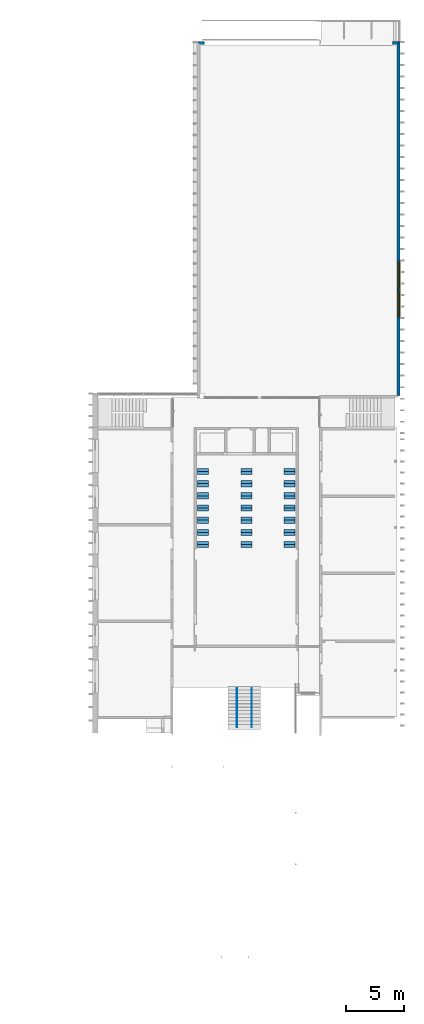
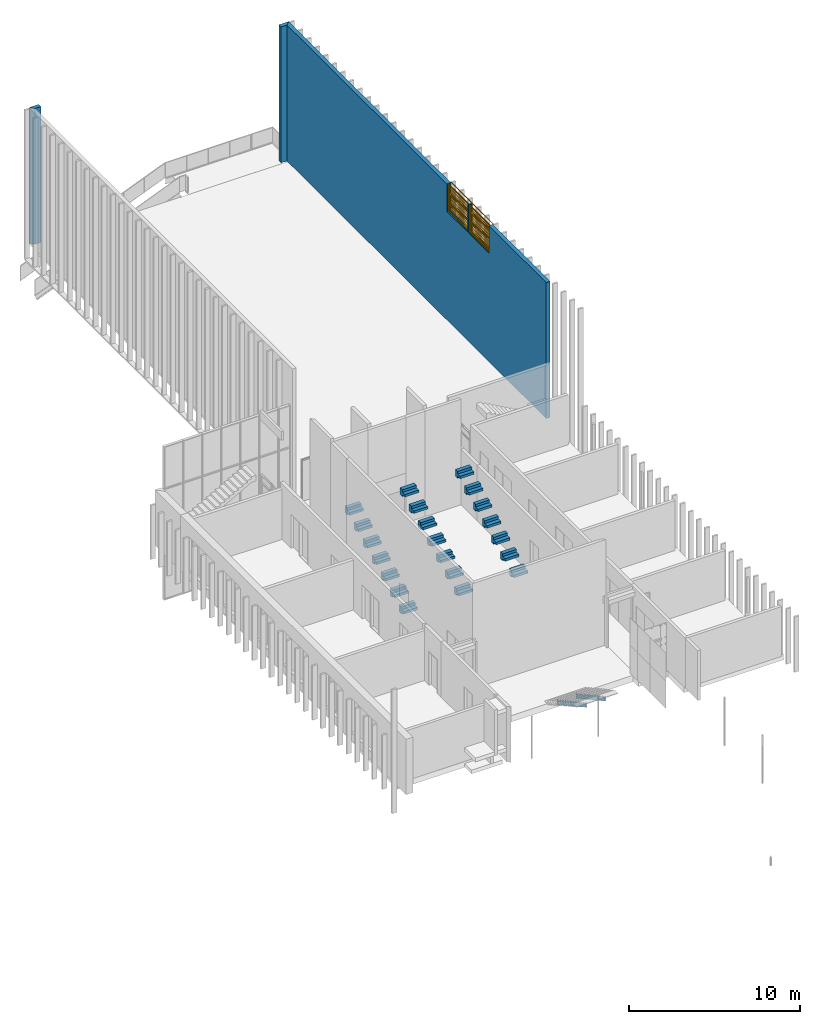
# One storey, part 14 of 62: 23 stairs, 3 walls, 2 windows, 2 openings.
"""IFC2X3 building model written with IfcOpenShell, lengths in millimetres."""

from ifc_helpers import new_model, entity, si_unit, converted_unit, derived_unit, money_unit, direction, frame, origin_with_axes, origin_2d_with_axis, place, context, subcontext, project, spatial, polyline, rectangle, outline, extrude, faceted_brep, source, transform, mapped, material, layer, layer_set, layer_usage, type_object, element, fill, save


model = new_model("IFC2X3")

# Units and contexts
model_context = context("Model", 3, precision=0.01, world=origin_with_axes(), true_north=direction((0.0, 1.0)))
body_context = subcontext(model_context, "Body", "Model", "MODEL_VIEW")
ifc_project = project(units=[si_unit("LENGTHUNIT", "METRE", prefix="MILLI"), si_unit("AREAUNIT", "SQUARE_METRE"), si_unit("VOLUMEUNIT", "CUBIC_METRE"), converted_unit("PLANEANGLEUNIT", "DEGREE", entity("IfcPlaneAngleMeasure", 0.0174532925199), si_unit("PLANEANGLEUNIT", "RADIAN"), dimensions=[0, 0, 0, 0, 0, 0, 0]), si_unit("SOLIDANGLEUNIT", "STERADIAN"), money_unit("EUR"), converted_unit("TIMEUNIT", "Year", entity("IfcTimeMeasure", 31556926.0), si_unit("TIMEUNIT", "SECOND"), dimensions=[0, 0, 1, 0, 0, 0, 0]), si_unit("MASSUNIT", "GRAM", prefix="KILO"), si_unit("THERMODYNAMICTEMPERATUREUNIT", "DEGREE_CELSIUS"), si_unit("LUMINOUSINTENSITYUNIT", "LUMEN"), si_unit("ENERGYUNIT", "JOULE", prefix="MEGA"), derived_unit("THERMALCONDUCTANCEUNIT", [(si_unit("POWERUNIT", "WATT"), 1), (si_unit("LENGTHUNIT", "METRE"), -1), (si_unit("THERMODYNAMICTEMPERATUREUNIT", "KELVIN"), -1)]), derived_unit("SPECIFICHEATCAPACITYUNIT", [(si_unit("ENERGYUNIT", "JOULE"), 1), (si_unit("MASSUNIT", "GRAM", prefix="KILO"), -1), (si_unit("THERMODYNAMICTEMPERATUREUNIT", "KELVIN"), -1)]), derived_unit("MASSDENSITYUNIT", [(si_unit("MASSUNIT", "GRAM", prefix="KILO"), 1), (si_unit("VOLUMEUNIT", "CUBIC_METRE"), -1)])], contexts=[model_context])

# Site, building, storey
site_placement = place(None, origin_with_axes())
site = spatial("IfcSite", under=ifc_project, at=site_placement, Name="Puškini 31, Narva", CompositionType="ELEMENT")
building_placement = place(site_placement, origin_with_axes())
building = spatial("IfcBuilding", under=site, at=building_placement, Name="Narva Riigigümnaasium", CompositionType="ELEMENT")
storey_placement = place(building_placement, frame((0.0, 0.0, 660.0), z_axis=(0.0, 0.0, 1.0), x_axis=(1.0, 0.0, 0.0)))
storey = spatial("IfcBuildingStorey", under=building, at=storey_placement, Name="2.korrus +0.66", CompositionType="ELEMENT", Elevation=660.0)

# Wall, openings, windows
ifc_material_1 = material(Name="fassaadiplaat")
ifc_layer_1 = layer(ifc_material_1, 8.0, ventilated="UNKNOWN")
ifc_material_2 = material(Name="Salto-roovitus")
ifc_layer_2 = layer(ifc_material_2, 50.0, ventilated="UNKNOWN")
ifc_material_3 = material(Name="Salto-PIR soojustus")
ifc_layer_3 = layer(ifc_material_3, 200.0, ventilated="UNKNOWN")
ifc_layer_set = layer_set([ifc_layer_1, ifc_layer_2, ifc_layer_3], Name="G-VS-03")
ifc_layer_usage = layer_usage(ifc_layer_set, "AXIS2", "NEGATIVE", 258.0)
wall_type = type_object("IfcWallType", Name="G-VS-03 258", PredefinedType="NOTDEFINED")
wall_1_placement = place(storey_placement, frame((54199.9999877, 254308.805854, -4.54279269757e-06), z_axis=(0.0, 0.0, 1.0), x_axis=(0.0, -1.0, 0.0)))
wall_1 = element("IfcWallStandardCase", 1, at=wall_1_placement, inside=storey, type_object=wall_type, material=ifc_layer_usage, Name="Välissein", context=body_context, shape_type="SweptSolid", body=[
    extrude(outline(polyline([(0.0, 0.0), (30298.8058489, 0.0), (30298.8058489, 258.0), (-258.0, 258.0), (0.0, 0.0)])), origin_with_axes(), (0.0, 0.0, 1.0), 9699.5095994),
])
opening_1_placement = place(wall_1_placement, frame((19898.3880003, 0.0, 7734.5660495), z_axis=(0.0, 0.0, 1.0), x_axis=(1.0, 0.0, 0.0)))
opening_1 = element("IfcOpeningElement", 2, at=opening_1_placement, cuts=wall_1, Name="G-VER-1", context=body_context, shape_type="SweptSolid", body=[
    extrude(rectangle(XDim=2400.0, YDim=1980.0, at=origin_2d_with_axis()), frame((0.0, 108.0, 990.0), z_axis=(0.0, 1.0, 0.0), x_axis=(-1.0, 0.0, 0.0)), (0.0, 0.0, 1.0), 408.0),
    extrude(rectangle(XDim=2400.0, YDim=1980.0, at=origin_2d_with_axis()), frame((0.0, 108.0, 990.0), z_axis=(0.0, -1.0, 0.0), x_axis=(-1.0, 0.0, 0.0)), (0.0, 0.0, 1.0), 366.0),
    extrude(rectangle(XDim=2500.0, YDim=2080.0, at=origin_2d_with_axis()), frame((0.0, 258.0, 990.0), z_axis=(0.0, 1.0, 0.0), x_axis=(-1.0, 0.0, 0.0)), (0.0, 0.0, 1.0), 408.0),
])
opening_2_placement = place(wall_1_placement, frame((22398.3880003, 0.0, 7734.5660495), z_axis=(0.0, 0.0, 1.0), x_axis=(1.0, 0.0, 0.0)))
opening_2 = element("IfcOpeningElement", 3, at=opening_2_placement, cuts=wall_1, Name="G-VER-1", context=body_context, shape_type="SweptSolid", body=[
    extrude(rectangle(XDim=2400.0, YDim=1980.0, at=origin_2d_with_axis()), frame((0.0, 108.0, 990.0), z_axis=(0.0, 1.0, 0.0), x_axis=(-1.0, 0.0, 0.0)), (0.0, 0.0, 1.0), 408.0),
    extrude(rectangle(XDim=2400.0, YDim=1980.0, at=origin_2d_with_axis()), frame((0.0, 108.0, 990.0), z_axis=(0.0, -1.0, 0.0), x_axis=(-1.0, 0.0, 0.0)), (0.0, 0.0, 1.0), 366.0),
    extrude(rectangle(XDim=2500.0, YDim=2080.0, at=origin_2d_with_axis()), frame((0.0, 258.0, 990.0), z_axis=(0.0, 1.0, 0.0), x_axis=(-1.0, 0.0, 0.0)), (0.0, 0.0, 1.0), 408.0),
])
window_style = type_object("IfcWindowStyle", Name="Window 23", ConstructionType="NOTDEFINED", OperationType="SINGLE_PANEL", ParameterTakesPrecedence=False, Sizeable=False)
shared_shape_1 = source(origin_with_axes(), body_context, "Body", "Brep", [
    faceted_brep([(1250.0, 180.0, -50.0), (1250.0, 150.0, -50.0), (1200.0, 150.0, 0.0), (1200.0, 180.0, 0.0), (1250.0, 180.0, 2030.0), (1250.0, 150.0, 2030.0), (1200.0, 150.0, 1980.0), (1200.0, 180.0, 1980.0)], [[[0, 1, 2, 3]], [[4, 5, 1, 0]], [[1, 5, 6, 2]], [[3, 2, 6, 7]], [[0, 3, 7, 4]], [[7, 6, 5, 4]]]),
    faceted_brep([(-1250.0, 180.0, 2030.0), (-1250.0, 150.0, 2030.0), (-1200.0, 150.0, 1980.0), (-1200.0, 180.0, 1980.0), (-1250.0, 180.0, -50.0), (-1250.0, 150.0, -50.0), (-1200.0, 150.0, 0.0), (-1200.0, 180.0, 0.0)], [[[0, 1, 2, 3]], [[4, 5, 1, 0]], [[1, 5, 6, 2]], [[3, 2, 6, 7]], [[0, 3, 7, 4]], [[7, 6, 5, 4]]]),
    faceted_brep([(-1250.0, 180.0, -50.0), (-1250.0, 150.0, -50.0), (-1200.0, 150.0, 0.0), (-1200.0, 180.0, 0.0), (1250.0, 180.0, -50.0), (1250.0, 150.0, -50.0), (1200.0, 150.0, 0.0), (1200.0, 180.0, 0.0)], [[[0, 1, 2, 3]], [[4, 5, 1, 0]], [[1, 5, 6, 2]], [[3, 2, 6, 7]], [[0, 3, 7, 4]], [[7, 6, 5, 4]]]),
    faceted_brep([(1250.0, 180.0, 2030.0), (1250.0, 150.0, 2030.0), (1200.0, 150.0, 1980.0), (1200.0, 180.0, 1980.0), (-1250.0, 180.0, 2030.0), (-1250.0, 150.0, 2030.0), (-1200.0, 150.0, 1980.0), (-1200.0, 180.0, 1980.0)], [[[0, 1, 2, 3]], [[4, 5, 1, 0]], [[1, 5, 6, 2]], [[3, 2, 6, 7]], [[0, 3, 7, 4]], [[7, 6, 5, 4]]]),
    faceted_brep([(1150.0, -25.0, 1930.0), (1150.0, -50.0, 1930.0), (1200.0, -50.0, 1930.0), (1200.0, -25.0, 1930.0), (1150.0, -25.0, 50.0), (1150.0, -50.0, 50.0), (1200.0, -50.0, 50.0), (1200.0, -25.0, 50.0)], [[[0, 1, 2, 3]], [[4, 5, 1, 0]], [[2, 1, 5, 6]], [[3, 2, 6, 7]], [[4, 0, 3, 7]], [[7, 6, 5, 4]]]),
    faceted_brep([(-1150.0, -25.0, 50.0), (-1150.0, -50.0, 50.0), (-1200.0, -50.0, 50.0), (-1200.0, -25.0, 50.0), (-1150.0, -25.0, 1930.0), (-1150.0, -50.0, 1930.0), (-1200.0, -50.0, 1930.0), (-1200.0, -25.0, 1930.0)], [[[0, 1, 2, 3]], [[4, 5, 1, 0]], [[2, 1, 5, 6]], [[3, 2, 6, 7]], [[4, 0, 3, 7]], [[7, 6, 5, 4]]]),
    faceted_brep([(1150.0, -25.0, 50.0), (1150.0, -50.0, 50.0), (1200.0, -50.0, 50.0), (1200.0, -25.0, 50.0), (-1150.0, -25.0, 50.0), (-1150.0, -50.0, 50.0), (-1200.0, -50.0, 50.0), (-1200.0, -50.0, 0.0), (1200.0, -50.0, 0.0), (1200.0, -25.0, 0.0), (-1200.0, -25.0, 0.0), (-1200.0, -25.0, 50.0)], [[[0, 1, 2, 3]], [[4, 5, 1, 0]], [[2, 1, 5, 6, 7, 8]], [[3, 2, 8, 9]], [[4, 0, 3, 9, 10, 11]], [[11, 6, 5, 4]], [[10, 7, 6, 11]], [[9, 8, 7, 10]]]),
    faceted_brep([(-1150.0, -25.0, 1930.0), (-1150.0, -50.0, 1930.0), (-1200.0, -50.0, 1930.0), (-1200.0, -25.0, 1930.0), (1150.0, -25.0, 1930.0), (1150.0, -50.0, 1930.0), (1200.0, -50.0, 1930.0), (1200.0, -50.0, 1980.0), (-1200.0, -50.0, 1980.0), (-1200.0, -25.0, 1980.0), (1200.0, -25.0, 1980.0), (1200.0, -25.0, 1930.0)], [[[0, 1, 2, 3]], [[4, 5, 1, 0]], [[2, 1, 5, 6, 7, 8]], [[3, 2, 8, 9]], [[4, 0, 3, 9, 10, 11]], [[11, 6, 5, 4]], [[10, 7, 6, 11]], [[9, 8, 7, 10]]]),
    faceted_brep([(1175.0, 0.0, 50.0), (1175.0, 0.0, 1930.0), (1200.0, 0.0, 1930.0), (1200.0, 0.0, 50.0), (1175.0, -25.0, 1930.0), (1175.0, -25.0, 50.0), (1200.0, -25.0, 1930.0), (1200.0, -25.0, 50.0)], [[[0, 1, 2, 3]], [[4, 1, 0, 5]], [[1, 4, 6, 2]], [[2, 6, 7, 3]], [[5, 0, 3, 7]], [[4, 5, 7, 6]]]),
    faceted_brep([(-1175.0, -25.0, 1930.0), (-1175.0, 0.0, 1930.0), (-1200.0, 0.0, 1930.0), (-1200.0, -25.0, 1930.0), (-1175.0, 0.0, 50.0), (-1175.0, -25.0, 50.0), (-1200.0, 0.0, 50.0), (-1200.0, -25.0, 50.0)], [[[0, 1, 2, 3]], [[4, 1, 0, 5]], [[1, 4, 6, 2]], [[6, 7, 3, 2]], [[5, 0, 3, 7]], [[4, 5, 7, 6]]]),
    faceted_brep([(-1175.0, -25.0, 50.0), (-1175.0, 0.0, 50.0), (-1200.0, 0.0, 50.0), (-1200.0, -25.0, 50.0), (-1175.0, 0.0, 25.0), (-1175.0, -25.0, 25.0), (1175.0, 0.0, 25.0), (1175.0, 0.0, 50.0), (1200.0, 0.0, 50.0), (1200.0, 0.0, 0.0), (-1200.0, 0.0, 0.0), (-1200.0, -25.0, 0.0), (1200.0, -25.0, 0.0), (1200.0, -25.0, 50.0), (1175.0, -25.0, 50.0), (1175.0, -25.0, 25.0)], [[[0, 1, 2, 3]], [[4, 1, 0, 5]], [[6, 7, 8, 9, 10, 2, 1, 4]], [[10, 11, 3, 2]], [[5, 0, 3, 11, 12, 13, 14, 15]], [[6, 4, 5, 15]], [[14, 7, 6, 15]], [[7, 14, 13, 8]], [[8, 13, 12, 9]], [[9, 12, 11, 10]]]),
    faceted_brep([(1175.0, 0.0, 1930.0), (1175.0, 0.0, 1955.0), (-1175.0, 0.0, 1955.0), (-1175.0, 0.0, 1930.0), (-1200.0, 0.0, 1930.0), (-1200.0, 0.0, 1980.0), (1200.0, 0.0, 1980.0), (1200.0, 0.0, 1930.0), (1175.0, -25.0, 1930.0), (1175.0, -25.0, 1955.0), (-1175.0, -25.0, 1955.0), (-1175.0, -25.0, 1930.0), (-1200.0, -25.0, 1930.0), (-1200.0, -25.0, 1980.0), (1200.0, -25.0, 1980.0), (1200.0, -25.0, 1930.0)], [[[0, 1, 2, 3, 4, 5, 6, 7]], [[1, 0, 8, 9]], [[2, 1, 9, 10]], [[3, 2, 10, 11]], [[3, 11, 12, 4]], [[4, 12, 13, 5]], [[5, 13, 14, 6]], [[6, 14, 15, 7]], [[8, 0, 7, 15]], [[9, 8, 15, 14, 13, 12, 11, 10]]]),
    faceted_brep([(1125.0, -25.0, 1905.0), (1175.0, -25.0, 1905.0), (1175.0, 25.0, 1905.0), (1125.0, 25.0, 1905.0), (1125.0, -25.0, 75.0), (1175.0, -25.0, 75.0), (1175.0, 25.0, 75.0), (1125.0, 25.0, 75.0)], [[[0, 1, 2, 3]], [[0, 4, 5, 1]], [[1, 5, 6, 2]], [[3, 2, 6, 7]], [[4, 0, 3, 7]], [[5, 4, 7, 6]]]),
    faceted_brep([(-1125.0, -25.0, 75.0), (-1175.0, -25.0, 75.0), (-1175.0, 25.0, 75.0), (-1125.0, 25.0, 75.0), (-1125.0, -25.0, 1905.0), (-1175.0, -25.0, 1905.0), (-1175.0, 25.0, 1905.0), (-1125.0, 25.0, 1905.0)], [[[0, 1, 2, 3]], [[0, 4, 5, 1]], [[1, 5, 6, 2]], [[3, 2, 6, 7]], [[4, 0, 3, 7]], [[5, 4, 7, 6]]]),
    faceted_brep([(-1175.0, -25.0, 25.0), (-1175.0, -25.0, 75.0), (-1175.0, 25.0, 75.0), (-1175.0, 25.0, 25.0), (1175.0, -25.0, 25.0), (1175.0, -25.0, 75.0), (1125.0, -25.0, 75.0), (-1125.0, -25.0, 75.0), (-1125.0, 25.0, 75.0), (1125.0, 25.0, 75.0), (1175.0, 25.0, 75.0), (1175.0, 25.0, 25.0)], [[[0, 1, 2, 3]], [[0, 4, 5, 6, 7, 1]], [[1, 7, 8, 2]], [[3, 2, 8, 9, 10, 11]], [[4, 0, 3, 11]], [[5, 4, 11, 10]], [[6, 5, 10, 9]], [[7, 6, 9, 8]]]),
    faceted_brep([(1175.0, -25.0, 1955.0), (1175.0, -25.0, 1905.0), (1175.0, 25.0, 1905.0), (1175.0, 25.0, 1955.0), (-1175.0, -25.0, 1955.0), (-1175.0, -25.0, 1905.0), (-1125.0, -25.0, 1905.0), (1125.0, -25.0, 1905.0), (1125.0, 25.0, 1905.0), (-1125.0, 25.0, 1905.0), (-1175.0, 25.0, 1905.0), (-1175.0, 25.0, 1955.0)], [[[0, 1, 2, 3]], [[0, 4, 5, 6, 7, 1]], [[1, 7, 8, 2]], [[3, 2, 8, 9, 10, 11]], [[4, 0, 3, 11]], [[5, 4, 11, 10]], [[6, 5, 10, 9]], [[7, 6, 9, 8]]]),
    faceted_brep([(1125.0, 42.7729580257, 98.2516031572), (1125.0, -45.2729580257, 149.084936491), (-1125.0, -45.2729580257, 149.084936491), (-1125.0, 42.7729580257, 98.2516031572), (1125.0, 45.2729580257, 102.581730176), (1125.0, -42.7729580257, 153.415063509), (-1125.0, -42.7729580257, 153.415063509), (-1125.0, 45.2729580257, 102.581730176)], [[[0, 1, 2, 3]], [[0, 4, 5, 1]], [[1, 5, 6, 2]], [[3, 2, 6, 7]], [[4, 0, 3, 7]], [[5, 4, 7, 6]]]),
    faceted_brep([(1125.0, 42.7729580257, 199.918269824), (1125.0, -45.2729580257, 250.751603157), (-1125.0, -45.2729580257, 250.751603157), (-1125.0, 42.7729580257, 199.918269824), (1125.0, 45.2729580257, 204.248396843), (1125.0, -42.7729580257, 255.081730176), (-1125.0, -42.7729580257, 255.081730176), (-1125.0, 45.2729580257, 204.248396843)], [[[0, 1, 2, 3]], [[0, 4, 5, 1]], [[1, 5, 6, 2]], [[3, 2, 6, 7]], [[4, 0, 3, 7]], [[5, 4, 7, 6]]]),
    faceted_brep([(1125.0, 42.7729580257, 301.584936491), (1125.0, -45.2729580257, 352.418269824), (-1125.0, -45.2729580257, 352.418269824), (-1125.0, 42.7729580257, 301.584936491), (1125.0, 45.2729580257, 305.915063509), (1125.0, -42.7729580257, 356.748396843), (-1125.0, -42.7729580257, 356.748396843), (-1125.0, 45.2729580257, 305.915063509)], [[[0, 1, 2, 3]], [[0, 4, 5, 1]], [[1, 5, 6, 2]], [[3, 2, 6, 7]], [[4, 0, 3, 7]], [[5, 4, 7, 6]]]),
    faceted_brep([(1125.0, 42.7729580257, 403.251603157), (1125.0, -45.2729580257, 454.084936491), (-1125.0, -45.2729580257, 454.084936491), (-1125.0, 42.7729580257, 403.251603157), (1125.0, 45.2729580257, 407.581730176), (1125.0, -42.7729580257, 458.415063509), (-1125.0, -42.7729580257, 458.415063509), (-1125.0, 45.2729580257, 407.581730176)], [[[0, 1, 2, 3]], [[0, 4, 5, 1]], [[1, 5, 6, 2]], [[3, 2, 6, 7]], [[4, 0, 3, 7]], [[5, 4, 7, 6]]]),
    faceted_brep([(1125.0, 42.7729580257, 504.918269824), (1125.0, -45.2729580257, 555.751603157), (-1125.0, -45.2729580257, 555.751603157), (-1125.0, 42.7729580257, 504.918269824), (1125.0, 45.2729580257, 509.248396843), (1125.0, -42.7729580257, 560.081730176), (-1125.0, -42.7729580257, 560.081730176), (-1125.0, 45.2729580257, 509.248396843)], [[[0, 1, 2, 3]], [[0, 4, 5, 1]], [[1, 5, 6, 2]], [[3, 2, 6, 7]], [[4, 0, 3, 7]], [[5, 4, 7, 6]]]),
    faceted_brep([(1125.0, 42.7729580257, 606.584936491), (1125.0, -45.2729580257, 657.418269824), (-1125.0, -45.2729580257, 657.418269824), (-1125.0, 42.7729580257, 606.584936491), (1125.0, 45.2729580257, 610.915063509), (1125.0, -42.7729580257, 661.748396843), (-1125.0, -42.7729580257, 661.748396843), (-1125.0, 45.2729580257, 610.915063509)], [[[0, 1, 2, 3]], [[0, 4, 5, 1]], [[1, 5, 6, 2]], [[3, 2, 6, 7]], [[4, 0, 3, 7]], [[5, 4, 7, 6]]]),
    faceted_brep([(1125.0, 42.7729580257, 708.251603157), (1125.0, -45.2729580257, 759.084936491), (-1125.0, -45.2729580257, 759.084936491), (-1125.0, 42.7729580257, 708.251603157), (1125.0, 45.2729580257, 712.581730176), (1125.0, -42.7729580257, 763.415063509), (-1125.0, -42.7729580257, 763.415063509), (-1125.0, 45.2729580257, 712.581730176)], [[[0, 1, 2, 3]], [[0, 4, 5, 1]], [[1, 5, 6, 2]], [[3, 2, 6, 7]], [[4, 0, 3, 7]], [[5, 4, 7, 6]]]),
    faceted_brep([(1125.0, 42.7729580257, 809.918269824), (1125.0, -45.2729580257, 860.751603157), (-1125.0, -45.2729580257, 860.751603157), (-1125.0, 42.7729580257, 809.918269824), (1125.0, 45.2729580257, 814.248396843), (1125.0, -42.7729580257, 865.081730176), (-1125.0, -42.7729580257, 865.081730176), (-1125.0, 45.2729580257, 814.248396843)], [[[0, 1, 2, 3]], [[0, 4, 5, 1]], [[1, 5, 6, 2]], [[3, 2, 6, 7]], [[4, 0, 3, 7]], [[5, 4, 7, 6]]]),
    faceted_brep([(1125.0, 42.7729580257, 911.584936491), (1125.0, -45.2729580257, 962.418269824), (-1125.0, -45.2729580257, 962.418269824), (-1125.0, 42.7729580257, 911.584936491), (1125.0, 45.2729580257, 915.915063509), (1125.0, -42.7729580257, 966.748396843), (-1125.0, -42.7729580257, 966.748396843), (-1125.0, 45.2729580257, 915.915063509)], [[[0, 1, 2, 3]], [[0, 4, 5, 1]], [[1, 5, 6, 2]], [[3, 2, 6, 7]], [[4, 0, 3, 7]], [[5, 4, 7, 6]]]),
    faceted_brep([(1125.0, 42.7729580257, 1013.25160316), (1125.0, -45.2729580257, 1064.08493649), (-1125.0, -45.2729580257, 1064.08493649), (-1125.0, 42.7729580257, 1013.25160316), (1125.0, 45.2729580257, 1017.58173018), (1125.0, -42.7729580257, 1068.41506351), (-1125.0, -42.7729580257, 1068.41506351), (-1125.0, 45.2729580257, 1017.58173018)], [[[0, 1, 2, 3]], [[0, 4, 5, 1]], [[1, 5, 6, 2]], [[3, 2, 6, 7]], [[4, 0, 3, 7]], [[5, 4, 7, 6]]]),
    faceted_brep([(1125.0, 42.7729580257, 1114.91826982), (1125.0, -45.2729580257, 1165.75160316), (-1125.0, -45.2729580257, 1165.75160316), (-1125.0, 42.7729580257, 1114.91826982), (1125.0, 45.2729580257, 1119.24839684), (1125.0, -42.7729580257, 1170.08173018), (-1125.0, -42.7729580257, 1170.08173018), (-1125.0, 45.2729580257, 1119.24839684)], [[[0, 1, 2, 3]], [[0, 4, 5, 1]], [[1, 5, 6, 2]], [[3, 2, 6, 7]], [[4, 0, 3, 7]], [[5, 4, 7, 6]]]),
    faceted_brep([(1125.0, 42.7729580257, 1216.58493649), (1125.0, -45.2729580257, 1267.41826982), (-1125.0, -45.2729580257, 1267.41826982), (-1125.0, 42.7729580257, 1216.58493649), (1125.0, 45.2729580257, 1220.91506351), (1125.0, -42.7729580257, 1271.74839684), (-1125.0, -42.7729580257, 1271.74839684), (-1125.0, 45.2729580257, 1220.91506351)], [[[0, 1, 2, 3]], [[0, 4, 5, 1]], [[1, 5, 6, 2]], [[3, 2, 6, 7]], [[4, 0, 3, 7]], [[5, 4, 7, 6]]]),
    faceted_brep([(1125.0, 42.7729580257, 1318.25160316), (1125.0, -45.2729580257, 1369.08493649), (-1125.0, -45.2729580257, 1369.08493649), (-1125.0, 42.7729580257, 1318.25160316), (1125.0, 45.2729580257, 1322.58173018), (1125.0, -42.7729580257, 1373.41506351), (-1125.0, -42.7729580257, 1373.41506351), (-1125.0, 45.2729580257, 1322.58173018)], [[[0, 1, 2, 3]], [[0, 4, 5, 1]], [[1, 5, 6, 2]], [[3, 2, 6, 7]], [[4, 0, 3, 7]], [[5, 4, 7, 6]]]),
    faceted_brep([(1125.0, 42.7729580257, 1419.91826982), (1125.0, -45.2729580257, 1470.75160316), (-1125.0, -45.2729580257, 1470.75160316), (-1125.0, 42.7729580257, 1419.91826982), (1125.0, 45.2729580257, 1424.24839684), (1125.0, -42.7729580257, 1475.08173018), (-1125.0, -42.7729580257, 1475.08173018), (-1125.0, 45.2729580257, 1424.24839684)], [[[0, 1, 2, 3]], [[0, 4, 5, 1]], [[1, 5, 6, 2]], [[3, 2, 6, 7]], [[4, 0, 3, 7]], [[5, 4, 7, 6]]]),
    faceted_brep([(1125.0, 42.7729580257, 1521.58493649), (1125.0, -45.2729580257, 1572.41826982), (-1125.0, -45.2729580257, 1572.41826982), (-1125.0, 42.7729580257, 1521.58493649), (1125.0, 45.2729580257, 1525.91506351), (1125.0, -42.7729580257, 1576.74839684), (-1125.0, -42.7729580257, 1576.74839684), (-1125.0, 45.2729580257, 1525.91506351)], [[[0, 1, 2, 3]], [[0, 4, 5, 1]], [[1, 5, 6, 2]], [[3, 2, 6, 7]], [[4, 0, 3, 7]], [[5, 4, 7, 6]]]),
    faceted_brep([(1125.0, 42.7729580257, 1623.25160316), (1125.0, -45.2729580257, 1674.08493649), (-1125.0, -45.2729580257, 1674.08493649), (-1125.0, 42.7729580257, 1623.25160316), (1125.0, 45.2729580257, 1627.58173018), (1125.0, -42.7729580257, 1678.41506351), (-1125.0, -42.7729580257, 1678.41506351), (-1125.0, 45.2729580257, 1627.58173018)], [[[0, 1, 2, 3]], [[0, 4, 5, 1]], [[1, 5, 6, 2]], [[3, 2, 6, 7]], [[4, 0, 3, 7]], [[5, 4, 7, 6]]]),
    faceted_brep([(1125.0, 42.7729580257, 1724.91826982), (1125.0, -45.2729580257, 1775.75160316), (-1125.0, -45.2729580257, 1775.75160316), (-1125.0, 42.7729580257, 1724.91826982), (1125.0, 45.2729580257, 1729.24839684), (1125.0, -42.7729580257, 1780.08173018), (-1125.0, -42.7729580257, 1780.08173018), (-1125.0, 45.2729580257, 1729.24839684)], [[[0, 1, 2, 3]], [[0, 4, 5, 1]], [[1, 5, 6, 2]], [[3, 2, 6, 7]], [[4, 0, 3, 7]], [[5, 4, 7, 6]]]),
    faceted_brep([(1125.0, 42.7729580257, 1826.58493649), (1125.0, -45.2729580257, 1877.41826982), (-1125.0, -45.2729580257, 1877.41826982), (-1125.0, 42.7729580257, 1826.58493649), (1125.0, 45.2729580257, 1830.91506351), (1125.0, -42.7729580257, 1881.74839684), (-1125.0, -42.7729580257, 1881.74839684), (-1125.0, 45.2729580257, 1830.91506351)], [[[0, 1, 2, 3]], [[0, 4, 5, 1]], [[1, 5, 6, 2]], [[3, 2, 6, 7]], [[4, 0, 3, 7]], [[5, 4, 7, 6]]]),
])
window_1_placement = place(opening_1_placement, frame((-1200.0, 0.0, 0.0), z_axis=(0.0, 0.0, 1.0), x_axis=(1.0, 0.0, 0.0)))
window_1 = element("IfcWindow", 4, at=window_1_placement, inside=storey, type_object=window_style, Name="G-VER-1", ObjectType="WINDOW", OverallHeight=1980.0, OverallWidth=2400.0, context=body_context, shape_type="MappedRepresentation", body=[
    mapped(shared_shape_1, transform((1200.0, 108.0, 0.0))),
])
fill(opening_1, window_1)
window_2_placement = place(opening_2_placement, frame((-1200.0, 0.0, 0.0), z_axis=(0.0, 0.0, 1.0), x_axis=(1.0, 0.0, 0.0)))
window_2 = element("IfcWindow", 5, at=window_2_placement, inside=storey, type_object=window_style, Name="G-VER-1", ObjectType="WINDOW", OverallHeight=1980.0, OverallWidth=2400.0, context=body_context, shape_type="MappedRepresentation", body=[
    mapped(shared_shape_1, transform((1200.0, 108.0, 0.0))),
])
fill(opening_2, window_2)

# Walls
wall_2_placement = place(storey_placement, frame((53800.0000018, 254308.805854, 0.0), z_axis=(0.0, 0.0, 1.0), x_axis=(1.0, 0.0, 0.0)))
element("IfcWallStandardCase", 6, at=wall_2_placement, inside=storey, type_object=wall_type, material=ifc_layer_usage, Name="Välissein", context=body_context, shape_type="SweptSolid", body=[
    extrude(outline(polyline([(0.0, 0.0), (399.999985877, 0.0), (657.999985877, 258.0), (0.0, 258.0), (0.0, 0.0)])), origin_with_axes(), (0.0, 0.0, 1.0), 9699.50959486),
])
wall_3_placement = place(storey_placement, frame((37200.0, 254308.805854, 0.0), z_axis=(0.0, 0.0, 1.0), x_axis=(1.0, 0.0, 0.0)))
element("IfcWallStandardCase", 7, at=wall_3_placement, inside=storey, type_object=wall_type, material=ifc_layer_usage, Name="Välissein", context=body_context, shape_type="SweptSolid", body=[
    extrude(outline(polyline([(0.0, 0.0), (402.000000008, 0.0), (402.000000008, 258.0), (-258.0, 258.0), (0.0, 0.0)])), origin_with_axes(), (0.0, 0.0, 1.0), 9699.50959486),
])

# Stairs
ifc_material_4 = material(Name="ET-03_Raud")
shared_shape_2 = source(origin_with_axes(), body_context, "Body", "Brep", [
    faceted_brep([(-2760.24044384, 1872.78920514, 0.0), (-2760.24044384, 1872.78920514, 10.0), (-2677.74045796, 1707.78918274, 10.0), (-2677.74045796, 1707.78918274, 0.0), (-2977.74046894, 1872.78920514, 0.0), (-2977.74046894, 1872.78920514, 10.0), (-3060.24050547, 2037.78922755, 10.0), (-3277.74048021, 2037.78922755, 10.0), (-3360.24051674, 2202.78919929, 10.0), (-3397.60000022, 2202.78919929, 10.0), (-3397.60000022, 1845.85455116, 10.0), (0.846782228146, -23.2911545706, 10.0), (0.846815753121, 387.789206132, 10.0), (-277.7404695, 387.789206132, 10.0), (-360.240455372, 552.789177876, 10.0), (-577.740453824, 552.789177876, 10.0), (-660.24049036, 717.789200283, 10.0), (-877.740463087, 717.789200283, 10.0), (-960.240499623, 882.789172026, 10.0), (-1177.74045571, 882.789172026, 10.0), (-1260.24039092, 1047.78919443, 10.0), (-1477.74046519, 1047.78919443, 10.0), (-1560.2404004, 1212.78921684, 10.0), (-1777.74047707, 1212.78921684, 10.0), (-1860.24041227, 1377.78923925, 10.0), (-2077.7404845, 1377.78923925, 10.0), (-2160.24057174, 1542.78926173, 10.0), (-2377.74047196, 1542.78921105, 10.0), (-2460.2404578, 1707.78918274, 10.0), (-2460.2404578, 1707.78918274, 0.0), (-3060.24050547, 2037.78922755, 0.0), (-2377.74047196, 1542.78921105, 0.0), (-2160.24057174, 1542.78926173, 0.0), (-2077.7404845, 1377.78923925, 0.0), (-1860.24041227, 1377.78923925, 0.0), (-1777.74047707, 1212.78921684, 0.0), (-1560.2404004, 1212.78921684, 0.0), (-1477.74046519, 1047.78919443, 0.0), (-1260.24039092, 1047.78919443, 0.0), (-1177.74045571, 882.789172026, 0.0), (-960.240499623, 882.789172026, 0.0), (-877.740463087, 717.789200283, 0.0), (-660.24049036, 717.789200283, 0.0), (-577.740453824, 552.789177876, 0.0), (-360.240455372, 552.789177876, 0.0), (-277.7404695, 387.789206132, 0.0), (0.846815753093, 387.789206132, 0.0), (0.846782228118, -23.2911545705, 0.0), (-3397.60000022, 1845.85455116, 0.0), (-3397.60000022, 2202.78919929, 0.0), (-3360.24051674, 2202.78919929, 0.0), (-3277.74048021, 2037.78922755, 0.0)], [[[0, 1, 2, 3]], [[0, 4, 5, 1]], [[5, 6, 7, 8, 9, 10, 11, 12, 13, 14, 15, 16, 17, 18, 19, 20, 21, 22, 23, 24, 25, 26, 27, 28, 2, 1]], [[29, 3, 2, 28]], [[30, 4, 0, 3, 29, 31, 32, 33, 34, 35, 36, 37, 38, 39, 40, 41, 42, 43, 44, 45, 46, 47, 48, 49, 50, 51]], [[4, 30, 6, 5]], [[30, 51, 7, 6]], [[51, 50, 8, 7]], [[50, 49, 9, 8]], [[48, 10, 9, 49]], [[10, 48, 47, 11]], [[47, 46, 12, 11]], [[46, 45, 13, 12]], [[45, 44, 14, 13]], [[44, 43, 15, 14]], [[43, 42, 16, 15]], [[42, 41, 17, 16]], [[41, 40, 18, 17]], [[40, 39, 19, 18]], [[39, 38, 20, 19]], [[38, 37, 21, 20]], [[37, 36, 22, 21]], [[36, 35, 23, 22]], [[35, 34, 24, 23]], [[34, 33, 25, 24]], [[33, 32, 26, 25]], [[32, 31, 27, 26]], [[31, 29, 28, 27]]]),
])
for number, where, z_axis, x_axis in (
    (8, (41675.9719162, 198827.624576, -275.261301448), (1.0, 0.0, 0.0), (0.0, 1.0, 0.0)),
    (9, (40393.9760105, 198827.624576, -275.261342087), (1.0, 0.0, 0.0), (0.0, 1.0, 0.0)),
):
    element("IfcStair", number, at=place(storey_placement, frame(where, z_axis=z_axis, x_axis=x_axis)), inside=storey, material=ifc_material_4, Name="Trepitala", ShapeType="NOTDEFINED", context=body_context, shape_type="MappedRepresentation", body=[
        mapped(shared_shape_2, transform((0.0, 0.0, 0.0))),
    ])
ifc_material_5 = material(Name="Betoon - Konstuktsioon")
for number, where, z_axis, x_axis in (
    (10, (36999.9999999, 210900.000005, -1.42987077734e-06), (0.0, 0.0, 1.0), (-1.0, 0.0, 0.0)),
    (11, (36999.9999995, 211950.000005, 539.99999857), (0.0, 0.0, 1.0), (-1.0, 0.0, 0.0)),
    (12, (36999.9999995, 213000.000005, 1079.99999857), (0.0, 0.0, 1.0), (-1.0, 0.0, 0.0)),
    (13, (36999.9999995, 214050.000006, 1620.14285633), (0.0, 0.0, 1.0), (-1.0, 0.0, 0.0)),
    (14, (36999.9999991, 215100.000006, 2160.14285633), (0.0, 0.0, 1.0), (-1.0, 0.0, 0.0)),
    (15, (36999.9999991, 216150.000005, 2700.14285633), (0.0, 0.0, 1.0), (-1.0, 0.0, 0.0)),
    (16, (36999.9999995, 217200.000006, 3240.14285633), (0.0, 0.0, 1.0), (-1.0, 0.0, 0.0)),
    (17, (40724.9999994, 210900.000005, -1.42987077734e-06), (0.0, 0.0, 1.0), (-1.0, 0.0, 0.0)),
    (18, (40724.999999, 211950.000005, 539.99999857), (0.0, 0.0, 1.0), (-1.0, 0.0, 0.0)),
    (19, (40724.999999, 213000.000005, 1079.99999857), (0.0, 0.0, 1.0), (-1.0, 0.0, 0.0)),
    (20, (40724.999999, 214050.000006, 1620.14285633), (0.0, 0.0, 1.0), (-1.0, 0.0, 0.0)),
    (21, (40724.9999986, 215100.000006, 2160.14285633), (0.0, 0.0, 1.0), (-1.0, 0.0, 0.0)),
    (22, (40724.9999986, 216150.000005, 2700.14285633), (0.0, 0.0, 1.0), (-1.0, 0.0, 0.0)),
    (23, (40724.999999, 217200.000006, 3240.14285633), (0.0, 0.0, 1.0), (-1.0, 0.0, 0.0)),
    (24, (44450.0000005, 210900.000005, -1.42987077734e-06), (0.0, 0.0, 1.0), (-1.0, 0.0, 0.0)),
    (25, (44450.0000001, 211950.000005, 539.99999857), (0.0, 0.0, 1.0), (-1.0, 0.0, 0.0)),
    (26, (44450.0000001, 213000.000005, 1079.99999857), (0.0, 0.0, 1.0), (-1.0, 0.0, 0.0)),
    (27, (44450.0000001, 214050.000006, 1620.14285633), (0.0, 0.0, 1.0), (-1.0, 0.0, 0.0)),
    (28, (44449.9999996, 215100.000006, 2160.14285633), (0.0, 0.0, 1.0), (-1.0, 0.0, 0.0)),
    (29, (44449.9999996, 216150.000005, 2700.14285633), (0.0, 0.0, 1.0), (-1.0, 0.0, 0.0)),
    (30, (44450.0000001, 217200.000006, 3240.14285633), (0.0, 0.0, 1.0), (-1.0, 0.0, 0.0)),
):
    element("IfcStair", number, at=place(storey_placement, frame(where, z_axis=z_axis, x_axis=x_axis)), inside=storey, material=ifc_material_5, Name="auditooriumi astmestik", ShapeType="NOTDEFINED", context=body_context, shape_type="Brep", body=[
        faceted_brep([(-949.999999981, -270.000000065, 0.0), (-950.0, -6.54551968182e-08, 0.0), (0.0, 0.0, 0.0), (1.86091142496e-08, -270.0, 0.0), (-949.999999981, -270.000000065, -120.740170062), (-949.999999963, -540.000000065, -120.740170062), (-949.999999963, -540.000000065, 0.0), (-949.999999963, -540.000000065, 360.0), (-949.999999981, -270.000000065, 360.0), (-949.999999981, -270.000000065, 180.0), (-950.0, -6.54551968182e-08, 180.0), (0.0, 0.0, 180.0), (3.72111230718e-08, -540.0, 0.0), (3.72111230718e-08, -540.0, -120.740170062), (1.86091142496e-08, -270.0, -120.740170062), (1.86091142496e-08, -270.0, 180.0), (1.86091142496e-08, -270.0, 360.0), (3.72111230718e-08, -540.0, 360.0)], [[[0, 1, 2, 3]], [[0, 4, 5, 6, 7, 8, 9, 10, 1]], [[1, 10, 11, 2]], [[12, 13, 14, 3, 2, 11, 15, 16, 17]], [[3, 14, 4, 0]], [[14, 13, 5, 4]], [[6, 5, 13, 12]], [[12, 17, 7, 6]], [[16, 8, 7, 17]], [[16, 15, 9, 8]], [[10, 9, 15, 11]]]),
    ])

save(model, "model.ifc")
